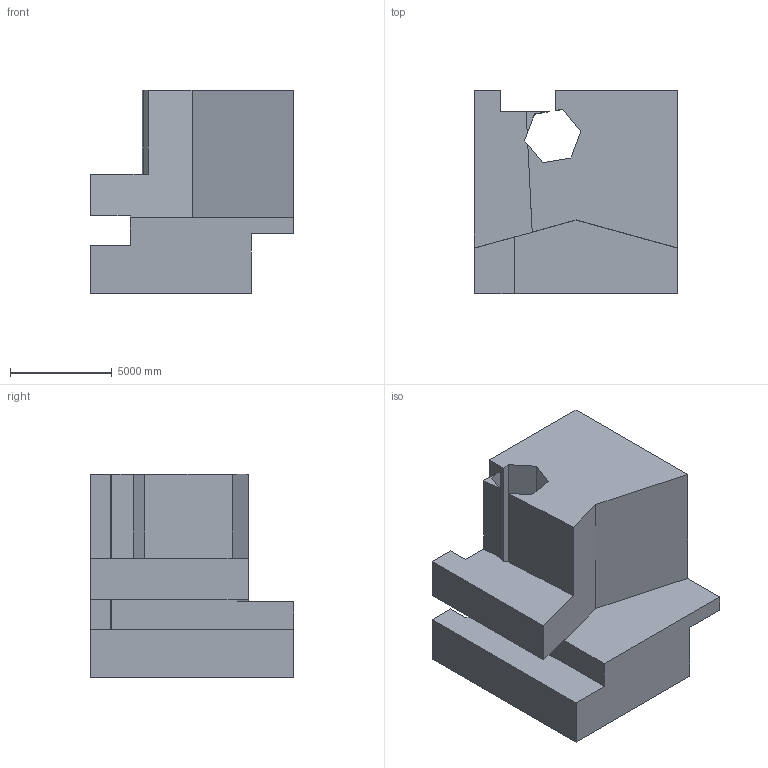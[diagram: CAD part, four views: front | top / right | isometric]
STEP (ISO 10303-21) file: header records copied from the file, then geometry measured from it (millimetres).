
FILE_DESCRIPTION (( 'STEP AP203' ), '1' );
FILE_NAME ('680.STEP', '2022-07-29T12:29:27', ( 'user' ), ( '' ), 'SwSTEP 2.0', 'SolidWorks 2021', '' );
FILE_SCHEMA (( 'CONFIG_CONTROL_DESIGN' ));
Length unit declared in the file: centimetre
Products named in the file (1): 680
Bounding box: 10000 x 10000 x 10000 mm (x, y, z)
Volume: 565156923870.2 mm3; surface area: 628268324.5 mm2
Topology: 1 solids, 1 shells, 36 faces, 101 edges, 67 vertices
Faces by surface type: plane 34, cylinder 2
Entity records: 1218 total; most frequent: CARTESIAN_POINT 205, ORIENTED_EDGE 202, DIRECTION 179, EDGE_CURVE 101, VECTOR 97, LINE 97, VERTEX_POINT 67, AXIS2_PLACEMENT_3D 41
